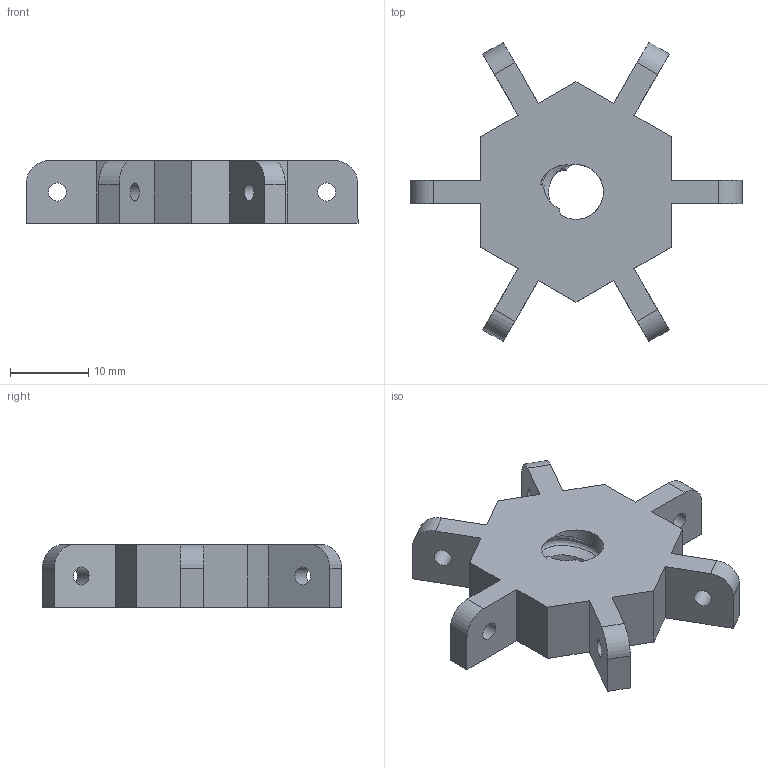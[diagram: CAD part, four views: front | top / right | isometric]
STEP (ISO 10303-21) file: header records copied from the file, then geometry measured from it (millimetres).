
FILE_DESCRIPTION(/* description */ ('STEP AP242'),/* implementation_level */ '2;1');
FILE_NAME(/* name */ 'Mobile Fixing.step',/* time_stamp */ '2026-07-17T11:58:00+01:00',/* author */ (''),/* organization */ (''),/* preprocessor_version */ 'ST-DEVELOPER v20.1',/* originating_system */ 'Autodesk Translation Framework v15.8.0.0',/* authorisation */ '');
FILE_SCHEMA (('AUTOMOTIVE_DESIGN { 1 0 10303 214 3 1 1 }'));
Length unit declared in the file: millimetre
Products named in the file (2): Part 1; Component2
Assembly tree (1 placements, depth 2):
  Part 1
    Component2
Bounding box: 42.32 x 38.15 x 8 mm (x, y, z)
Volume: 4927.1 mm3; surface area: 3049.8 mm2
Topology: 1 solids, 1 shells, 55 faces, 157 edges, 104 vertices
Faces by surface type: plane 32, cylinder 16, bspline 7
Full cylindrical faces by diameter (mm): 2.3 x6
Entity records: 3224 total; most frequent: CARTESIAN_POINT 1737, ORIENTED_EDGE 314, DIRECTION 265, EDGE_CURVE 157, LINE 107, VECTOR 107, VERTEX_POINT 104, AXIS2_PLACEMENT_3D 79
